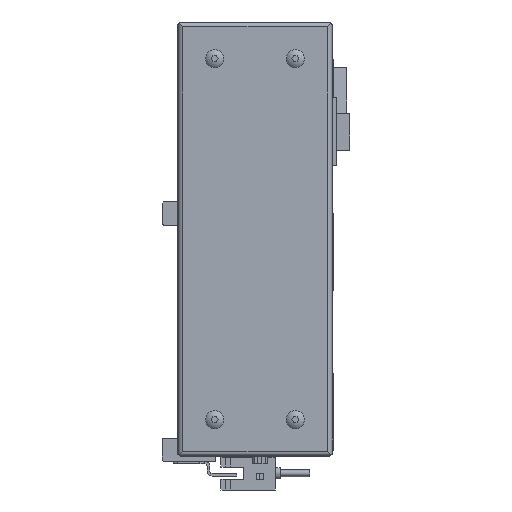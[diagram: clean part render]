
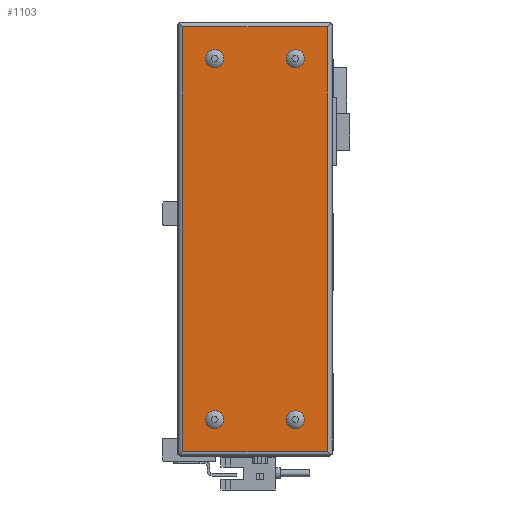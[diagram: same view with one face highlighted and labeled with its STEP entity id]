
A CAD part, left-side view. The second image highlights one B-rep face of the part: STEP entity #1103.
In plain terms, the highlighted planar face has unit normal (-1, 0, 0).
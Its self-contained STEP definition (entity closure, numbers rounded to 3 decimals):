
#1103 = ADVANCED_FACE( '', ( #2813, #2814, #2815, #2816, #2817 ), #2818, .F. );
#2813 = FACE_BOUND( '', #5342, .T. );
#2814 = FACE_BOUND( '', #5343, .T. );
#2815 = FACE_BOUND( '', #5344, .T. );
#2816 = FACE_BOUND( '', #5345, .T. );
#2817 = FACE_OUTER_BOUND( '', #5346, .T. );
#2818 = PLANE( '', #5347 );
#5342 = EDGE_LOOP( '', ( #8278 ) );
#5343 = EDGE_LOOP( '', ( #8279 ) );
#5344 = EDGE_LOOP( '', ( #8280 ) );
#5345 = EDGE_LOOP( '', ( #8281 ) );
#5346 = EDGE_LOOP( '', ( #8282, #8283, #8284, #8285 ) );
#5347 = AXIS2_PLACEMENT_3D( '', #8286, #8287, #8288 );
#8278 = ORIENTED_EDGE( '', *, *, #14683, .F. );
#8279 = ORIENTED_EDGE( '', *, *, #14830, .F. );
#8280 = ORIENTED_EDGE( '', *, *, #14831, .F. );
#8281 = ORIENTED_EDGE( '', *, *, #14832, .F. );
#8282 = ORIENTED_EDGE( '', *, *, #14833, .F. );
#8283 = ORIENTED_EDGE( '', *, *, #14834, .F. );
#8284 = ORIENTED_EDGE( '', *, *, #14835, .T. );
#8285 = ORIENTED_EDGE( '', *, *, #14836, .T. );
#8286 = CARTESIAN_POINT( '', ( -52., 0., 0. ) );
#8287 = DIRECTION( '', ( 1., 0., 0. ) );
#8288 = DIRECTION( '', ( 0., 0., -1. ) );
#14683 = EDGE_CURVE( '', #17554, #17554, #17555, .F. );
#14830 = EDGE_CURVE( '', #17816, #17816, #17817, .F. );
#14831 = EDGE_CURVE( '', #17818, #17818, #17819, .F. );
#14832 = EDGE_CURVE( '', #17820, #17820, #17821, .F. );
#14833 = EDGE_CURVE( '', #17822, #17823, #17824, .T. );
#14834 = EDGE_CURVE( '', #17825, #17822, #17826, .T. );
#14835 = EDGE_CURVE( '', #17825, #17827, #17828, .T. );
#14836 = EDGE_CURVE( '', #17827, #17823, #17829, .T. );
#17554 = VERTEX_POINT( '', #21747 );
#17555 = CIRCLE( '', #21748, 3.7 );
#17816 = VERTEX_POINT( '', #22159 );
#17817 = CIRCLE( '', #22160, 3.7 );
#17818 = VERTEX_POINT( '', #22161 );
#17819 = CIRCLE( '', #22162, 3.7 );
#17820 = VERTEX_POINT( '', #22163 );
#17821 = CIRCLE( '', #22164, 3.7 );
#17822 = VERTEX_POINT( '', #22165 );
#17823 = VERTEX_POINT( '', #22166 );
#17824 = LINE( '', #22167, #22168 );
#17825 = VERTEX_POINT( '', #22169 );
#17826 = LINE( '', #22170, #22171 );
#17827 = VERTEX_POINT( '', #22172 );
#17828 = LINE( '', #22173, #22174 );
#17829 = LINE( '', #22175, #22176 );
#21747 = CARTESIAN_POINT( '', ( -52., 15.5, 107.8 ) );
#21748 = AXIS2_PLACEMENT_3D( '', #27275, #27276, #27277 );
#22159 = CARTESIAN_POINT( '', ( -52., 15.5, -39.7 ) );
#22160 = AXIS2_PLACEMENT_3D( '', #27433, #27434, #27435 );
#22161 = CARTESIAN_POINT( '', ( -52., 48.5, 107.8 ) );
#22162 = AXIS2_PLACEMENT_3D( '', #27436, #27437, #27438 );
#22163 = CARTESIAN_POINT( '', ( -52., 48.5, -39.7 ) );
#22164 = AXIS2_PLACEMENT_3D( '', #27439, #27440, #27441 );
#22165 = CARTESIAN_POINT( '', ( -52., 2.5, 124.5 ) );
#22166 = CARTESIAN_POINT( '', ( -52., 2.5, -49. ) );
#22167 = CARTESIAN_POINT( '', ( -52., 2.5, 177.5 ) );
#22168 = VECTOR( '', #27442, 1000. );
#22169 = CARTESIAN_POINT( '', ( -52., 61.5, 124.5 ) );
#22170 = CARTESIAN_POINT( '', ( -52., 177.5, 124.5 ) );
#22171 = VECTOR( '', #27443, 1000. );
#22172 = CARTESIAN_POINT( '', ( -52., 61.5, -49. ) );
#22173 = CARTESIAN_POINT( '', ( -52., 61.5, 177.5 ) );
#22174 = VECTOR( '', #27444, 1000. );
#22175 = CARTESIAN_POINT( '', ( -52., 177.5, -49. ) );
#22176 = VECTOR( '', #27445, 1000. );
#27275 = CARTESIAN_POINT( '', ( -52., 15.5, 111.5 ) );
#27276 = DIRECTION( '', ( 1., 0., 0. ) );
#27277 = DIRECTION( '', ( 0., 0., -1. ) );
#27433 = CARTESIAN_POINT( '', ( -52., 15.5, -36. ) );
#27434 = DIRECTION( '', ( 1., 0., 0. ) );
#27435 = DIRECTION( '', ( 0., 0., -1. ) );
#27436 = CARTESIAN_POINT( '', ( -52., 48.5, 111.5 ) );
#27437 = DIRECTION( '', ( 1., 0., 0. ) );
#27438 = DIRECTION( '', ( 0., 0., -1. ) );
#27439 = CARTESIAN_POINT( '', ( -52., 48.5, -36. ) );
#27440 = DIRECTION( '', ( 1., 0., 0. ) );
#27441 = DIRECTION( '', ( 0., 0., -1. ) );
#27442 = DIRECTION( '', ( 0., 0., -1. ) );
#27443 = DIRECTION( '', ( 0., -1., 0. ) );
#27444 = DIRECTION( '', ( 0., 0., -1. ) );
#27445 = DIRECTION( '', ( 0., -1., 0. ) );
